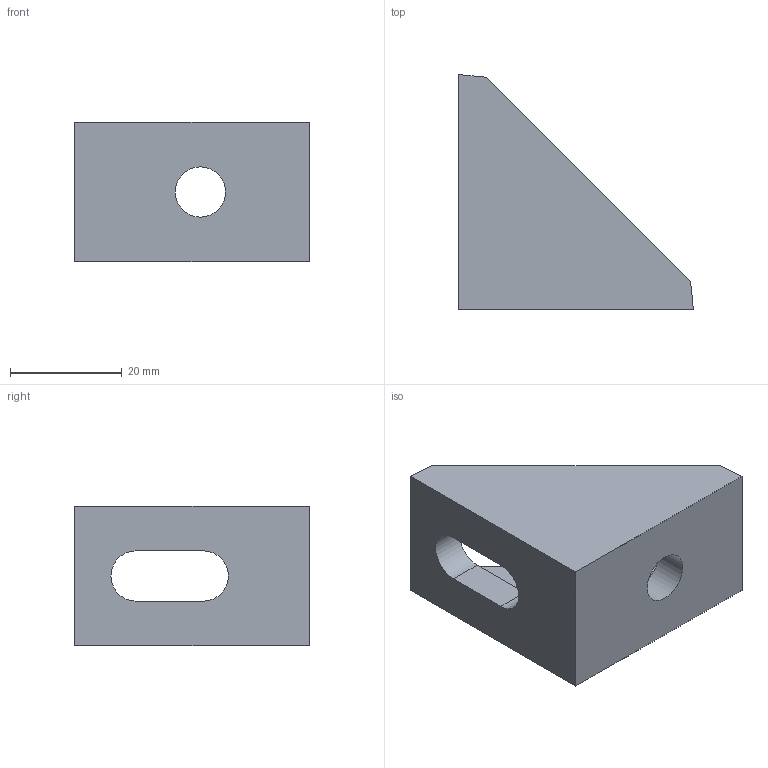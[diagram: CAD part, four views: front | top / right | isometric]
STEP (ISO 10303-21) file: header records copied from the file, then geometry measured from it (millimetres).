
FILE_DESCRIPTION (( 'STEP AP214' ), '1' );
FILE_NAME ('SL03002.step', '2024-12-03T16:30:56', ( '' ), ( '' ), 'SwSTEP 2.0', 'SolidWorks 2023', '' );
FILE_SCHEMA (( 'AUTOMOTIVE_DESIGN' ));
Length unit declared in the file: millimetre
Products named in the file (1): SL03002
Bounding box: 42 x 42 x 25 mm (x, y, z)
Volume: 13716.1 mm3; surface area: 7335.7 mm2
Topology: 1 solids, 1 shells, 19 faces, 47 edges, 30 vertices
Faces by surface type: plane 14, cylinder 5
Full cylindrical faces by diameter (mm): 9 x1
Entity records: 585 total; most frequent: CARTESIAN_POINT 96, DIRECTION 96, ORIENTED_EDGE 92, EDGE_CURVE 46, VECTOR 36, LINE 36, VERTEX_POINT 30, AXIS2_PLACEMENT_3D 30
